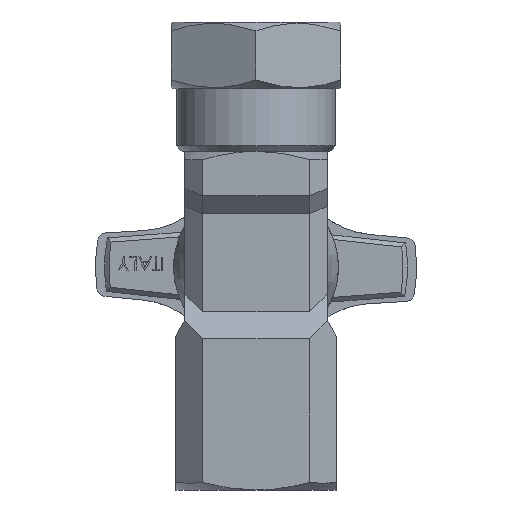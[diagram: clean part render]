
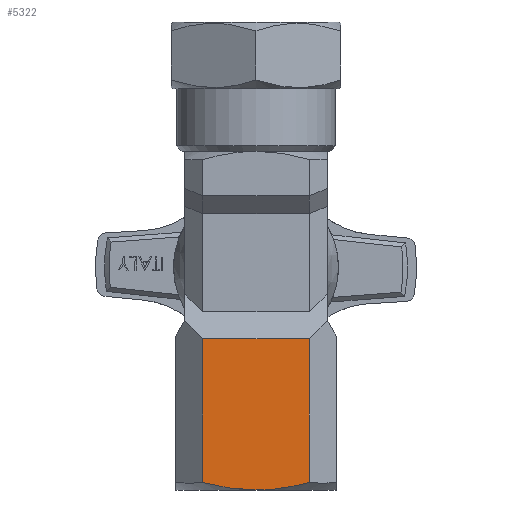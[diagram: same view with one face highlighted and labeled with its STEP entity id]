
A CAD part, front view. The second image highlights one B-rep face of the part: STEP entity #5322.
In plain terms, the highlighted planar face has unit normal (0, -1, 0).
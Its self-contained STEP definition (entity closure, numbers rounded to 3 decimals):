
#5268 = VERTEX_POINT ( 'NONE', #11696 ) ;
#5275 = ORIENTED_EDGE ( 'NONE', *, *, #5280, .T. ) ;
#5276 = ORIENTED_EDGE ( 'NONE', *, *, #5277, .F. ) ;
#5277 = EDGE_CURVE ( 'NONE', #5325, #5281, #11765, .T. ) ;
#5280 = EDGE_CURVE ( 'NONE', #5268, #5281, #11795, .T. ) ;
#5281 = VERTEX_POINT ( 'NONE', #11772 ) ;
#5322 = ADVANCED_FACE ( 'NONE', ( #11847 ), #11831, .T. ) ;
#5323 = EDGE_LOOP ( 'NONE', ( #5324, #5347, #5328, #5275, #5276 ) ) ;
#5324 = ORIENTED_EDGE ( 'NONE', *, *, #5345, .T. ) ;
#5325 = VERTEX_POINT ( 'NONE', #11826 ) ;
#5327 = VERTEX_POINT ( 'NONE', #11816 ) ;
#5328 = ORIENTED_EDGE ( 'NONE', *, *, #5329, .T. ) ;
#5329 = EDGE_CURVE ( 'NONE', #5327, #5268, #11815, .T. ) ;
#5345 = EDGE_CURVE ( 'NONE', #5325, #5346, #11889, .T. ) ;
#5346 = VERTEX_POINT ( 'NONE', #11728 ) ;
#5347 = ORIENTED_EDGE ( 'NONE', *, *, #5348, .T. ) ;
#5348 = EDGE_CURVE ( 'NONE', #5346, #5327, #12070, .T. ) ;
#11696 = CARTESIAN_POINT ( 'NONE',  ( 6., -9., -44.153 ) ) ;
#11728 = CARTESIAN_POINT ( 'NONE',  ( -6., -9., -44.153 ) ) ;
#11763 = DIRECTION ( 'NONE',  ( 1., 0., 0. ) ) ;
#11764 = CARTESIAN_POINT ( 'NONE',  ( -9., -9., -28.005 ) ) ;
#11765 = LINE ( 'NONE', #11764, #11781 ) ;
#11772 = CARTESIAN_POINT ( 'NONE',  ( 6., -9., -28.005 ) ) ;
#11773 = DIRECTION ( 'NONE',  ( 0., 0., 1. ) ) ;
#11774 = VECTOR ( 'NONE', #11773, 1000. ) ;
#11775 = CARTESIAN_POINT ( 'NONE',  ( 6., -9., -53. ) ) ;
#11781 = VECTOR ( 'NONE', #11763, 1000. ) ;
#11795 = LINE ( 'NONE', #11775, #11774 ) ;
#11815 = B_SPLINE_CURVE_WITH_KNOTS ( 'NONE', 3,
 ( #11869, #11868, #11867, #11866, #11865, #11864, #11863, #11862 ),
 .UNSPECIFIED., .F., .F.,
 ( 4, 2, 2, 4 ),
 ( 0.015, 0.017, 0.018, 0.021 ),
 .UNSPECIFIED. ) ;
#11816 = CARTESIAN_POINT ( 'NONE',  ( 0., -9., -45. ) ) ;
#11826 = CARTESIAN_POINT ( 'NONE',  ( -6., -9., -28.005 ) ) ;
#11827 = DIRECTION ( 'NONE',  ( 0., 0., -1. ) ) ;
#11828 = DIRECTION ( 'NONE',  ( 0., -1., 0. ) ) ;
#11829 = CARTESIAN_POINT ( 'NONE',  ( -9., -9., -53. ) ) ;
#11830 = AXIS2_PLACEMENT_3D ( 'NONE', #11829, #11828, #11827 ) ;
#11831 = PLANE ( 'NONE',  #11830 ) ;
#11847 = FACE_OUTER_BOUND ( 'NONE', #5323, .T. ) ;
#11862 = CARTESIAN_POINT ( 'NONE',  ( 6., -9., -44.153 ) ) ;
#11863 = CARTESIAN_POINT ( 'NONE',  ( 5.027, -9., -44.405 ) ) ;
#11864 = CARTESIAN_POINT ( 'NONE',  ( 4.041, -9., -44.618 ) ) ;
#11865 = CARTESIAN_POINT ( 'NONE',  ( 2.527, -9., -44.843 ) ) ;
#11866 = CARTESIAN_POINT ( 'NONE',  ( 2.019, -9., -44.902 ) ) ;
#11867 = CARTESIAN_POINT ( 'NONE',  ( 1.008, -9., -44.98 ) ) ;
#11868 = CARTESIAN_POINT ( 'NONE',  ( 0.504, -9., -45. ) ) ;
#11869 = CARTESIAN_POINT ( 'NONE',  ( 0., -9., -45. ) ) ;
#11886 = DIRECTION ( 'NONE',  ( 0., 0., -1. ) ) ;
#11887 = VECTOR ( 'NONE', #11886, 1000. ) ;
#11888 = CARTESIAN_POINT ( 'NONE',  ( -6., -9., -53. ) ) ;
#11889 = LINE ( 'NONE', #11888, #11887 ) ;
#11960 = CARTESIAN_POINT ( 'NONE',  ( 0., -9., -45. ) ) ;
#11961 = CARTESIAN_POINT ( 'NONE',  ( -1.008, -9., -45. ) ) ;
#11962 = CARTESIAN_POINT ( 'NONE',  ( -2.012, -9., -44.919 ) ) ;
#11963 = CARTESIAN_POINT ( 'NONE',  ( -4.015, -9., -44.623 ) ) ;
#12066 = CARTESIAN_POINT ( 'NONE',  ( -5.016, -9., -44.407 ) ) ;
#12067 = CARTESIAN_POINT ( 'NONE',  ( -6., -9., -44.153 ) ) ;
#12070 = B_SPLINE_CURVE_WITH_KNOTS ( 'NONE', 3,
 ( #12067, #12066, #11963, #11962, #11961, #11960 ),
 .UNSPECIFIED., .F., .F.,
 ( 4, 2, 4 ),
 ( 0.009, 0.012, 0.015 ),
 .UNSPECIFIED. ) ;
